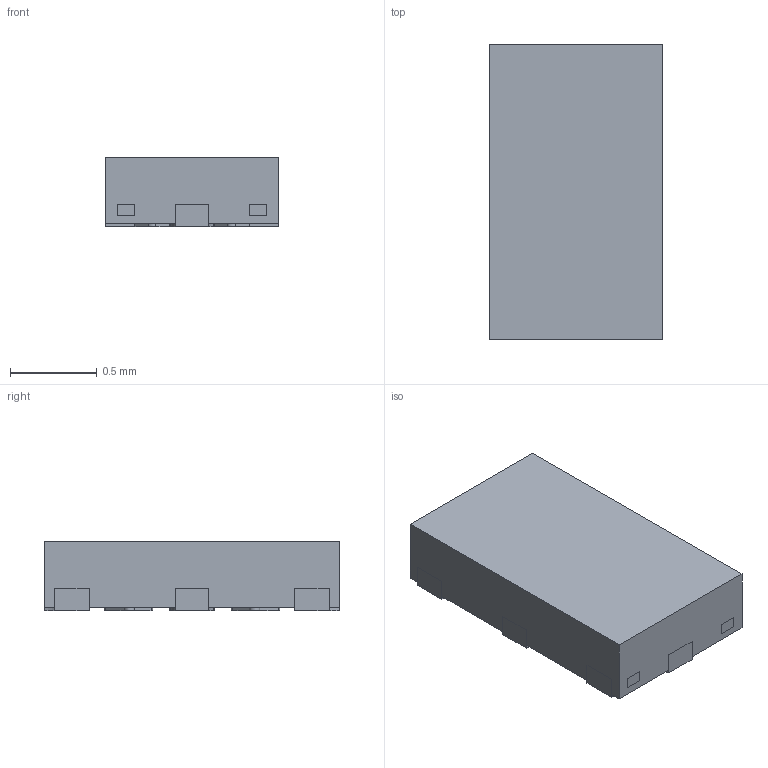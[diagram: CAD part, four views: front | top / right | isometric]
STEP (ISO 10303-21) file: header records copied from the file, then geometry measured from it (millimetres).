
FILE_DESCRIPTION((''),'2;1');
FILE_NAME('DTR0012A_ASM','2021-03-08T08:45:35',('a0412086'),(''),'CREO PARAMETRIC BY PTC INC, 2018500','CREO PARAMETRIC BY PTC INC, 2018500','');
FILE_SCHEMA(('CONFIG_CONTROL_DESIGN','SHAPE_APPEARANCE_LAYERS_GROUPS'));
Length unit declared in the file: millimetre
Products named in the file (3): FRAME; MOLD; DTR0012A_ASM
Assembly tree (2 placements, depth 2):
  DTR0012A_ASM
    FRAME
    MOLD
Bounding box: 1 x 1.7 x 0.4 mm (x, y, z)
Volume: 0.7 mm3; surface area: 8.3 mm2
Topology: 13 solids, 13 shells, 282 faces, 768 edges, 512 vertices
Faces by surface type: plane 186, cylinder 96
Entity records: 11506 total; most frequent: CARTESIAN_POINT 1567, ORIENTED_EDGE 1536, DIRECTION 1534, PRESENTATION_STYLE_ASSIGNMENT 793, STYLED_ITEM 781, CURVE_STYLE 768, EDGE_CURVE 768, VECTOR 576
